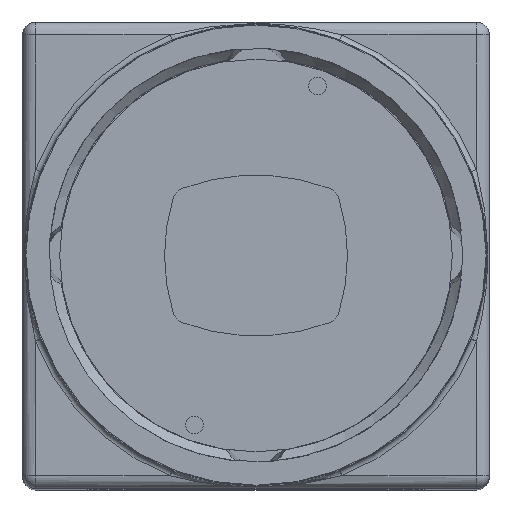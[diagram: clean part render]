
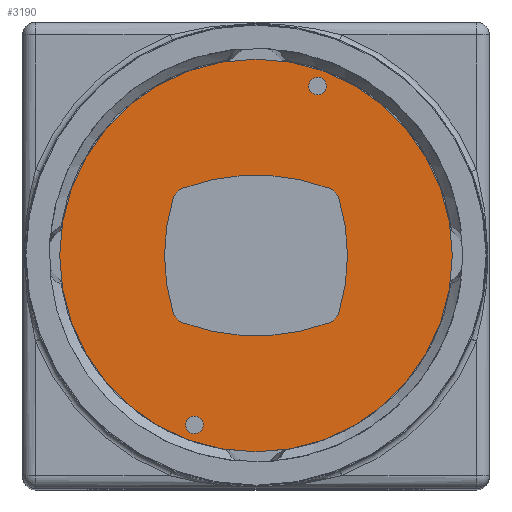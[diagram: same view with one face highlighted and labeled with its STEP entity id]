
A CAD part, top view. The second image highlights one B-rep face of the part: STEP entity #3190.
In plain terms, the highlighted planar face has unit normal (0, 0, 1).
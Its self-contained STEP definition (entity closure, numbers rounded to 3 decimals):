
#3190 = ADVANCED_FACE( '', ( #8228, #8229, #8230, #8231 ), #8232, .F. );
#8228 = FACE_BOUND( '', #16061, .T. );
#8229 = FACE_BOUND( '', #16062, .T. );
#8230 = FACE_BOUND( '', #16063, .T. );
#8231 = FACE_OUTER_BOUND( '', #16064, .T. );
#8232 = PLANE( '', #16065 );
#16061 = EDGE_LOOP( '', ( #27508 ) );
#16062 = EDGE_LOOP( '', ( #27509 ) );
#16063 = EDGE_LOOP( '', ( #27510, #27511, #27512, #27513, #27514, #27515, #27516, #27517 ) );
#16064 = EDGE_LOOP( '', ( #27518 ) );
#16065 = AXIS2_PLACEMENT_3D( '', #27519, #27520, #27521 );
#27508 = ORIENTED_EDGE( '', *, *, #45143, .T. );
#27509 = ORIENTED_EDGE( '', *, *, #45812, .T. );
#27510 = ORIENTED_EDGE( '', *, *, #45356, .T. );
#27511 = ORIENTED_EDGE( '', *, *, #45813, .T. );
#27512 = ORIENTED_EDGE( '', *, *, #45814, .T. );
#27513 = ORIENTED_EDGE( '', *, *, #45815, .T. );
#27514 = ORIENTED_EDGE( '', *, *, #44881, .T. );
#27515 = ORIENTED_EDGE( '', *, *, #45816, .T. );
#27516 = ORIENTED_EDGE( '', *, *, #45817, .T. );
#27517 = ORIENTED_EDGE( '', *, *, #45818, .T. );
#27518 = ORIENTED_EDGE( '', *, *, #45819, .F. );
#27519 = CARTESIAN_POINT( '', ( 1.907, 5.239, 5.8 ) );
#27520 = DIRECTION( '', ( 0., 0., -1. ) );
#27521 = DIRECTION( '', ( -1., 0., 0. ) );
#44881 = EDGE_CURVE( '', #53747, #53748, #53749, .T. );
#45143 = EDGE_CURVE( '', #54195, #54195, #54196, .T. );
#45356 = EDGE_CURVE( '', #54542, #54540, #54543, .T. );
#45812 = EDGE_CURVE( '', #55288, #55288, #55289, .T. );
#45813 = EDGE_CURVE( '', #54540, #55290, #55291, .T. );
#45814 = EDGE_CURVE( '', #55290, #55292, #55293, .T. );
#45815 = EDGE_CURVE( '', #55292, #53747, #55294, .T. );
#45816 = EDGE_CURVE( '', #53748, #55295, #55296, .T. );
#45817 = EDGE_CURVE( '', #55295, #55297, #55298, .T. );
#45818 = EDGE_CURVE( '', #55297, #54542, #55299, .T. );
#45819 = EDGE_CURVE( '', #55300, #55300, #55301, .T. );
#53747 = VERTEX_POINT( '', #66592 );
#53748 = VERTEX_POINT( '', #66593 );
#53749 = CIRCLE( '', #66594, 12. );
#54195 = VERTEX_POINT( '', #67283 );
#54196 = CIRCLE( '', #67284, 0.55 );
#54540 = VERTEX_POINT( '', #67812 );
#54542 = VERTEX_POINT( '', #67815 );
#54543 = CIRCLE( '', #67816, 12. );
#55288 = VERTEX_POINT( '', #69020 );
#55289 = CIRCLE( '', #69021, 0.55 );
#55290 = VERTEX_POINT( '', #69022 );
#55291 = CIRCLE( '', #69023, 1. );
#55292 = VERTEX_POINT( '', #69024 );
#55293 = CIRCLE( '', #69025, 13. );
#55294 = CIRCLE( '', #69026, 1. );
#55295 = VERTEX_POINT( '', #69027 );
#55296 = CIRCLE( '', #69028, 1. );
#55297 = VERTEX_POINT( '', #69029 );
#55298 = CIRCLE( '', #69030, 13. );
#55299 = CIRCLE( '', #69031, 1. );
#55300 = VERTEX_POINT( '', #69032 );
#55301 = CIRCLE( '', #69033, 12.2 );
#66592 = CARTESIAN_POINT( '', ( -5.153, -3.537, 5.8 ) );
#66593 = CARTESIAN_POINT( '', ( -5.153, 3.537, 5.8 ) );
#66594 = AXIS2_PLACEMENT_3D( '', #81817, #81818, #81819 );
#67283 = CARTESIAN_POINT( '', ( -3.831, -11.075, 5.8 ) );
#67284 = AXIS2_PLACEMENT_3D( '', #82141, #82142, #82143 );
#67812 = CARTESIAN_POINT( '', ( 5.153, -3.537, 5.8 ) );
#67815 = CARTESIAN_POINT( '', ( 5.153, 3.537, 5.8 ) );
#67816 = AXIS2_PLACEMENT_3D( '', #82383, #82384, #82385 );
#69020 = CARTESIAN_POINT( '', ( 3.831, 9.975, 5.8 ) );
#69021 = AXIS2_PLACEMENT_3D( '', #82904, #82905, #82906 );
#69022 = CARTESIAN_POINT( '', ( 4.548, -4.179, 5.8 ) );
#69023 = AXIS2_PLACEMENT_3D( '', #82907, #82908, #82909 );
#69024 = CARTESIAN_POINT( '', ( -4.548, -4.179, 5.8 ) );
#69025 = AXIS2_PLACEMENT_3D( '', #82910, #82911, #82912 );
#69026 = AXIS2_PLACEMENT_3D( '', #82913, #82914, #82915 );
#69027 = CARTESIAN_POINT( '', ( -4.548, 4.179, 5.8 ) );
#69028 = AXIS2_PLACEMENT_3D( '', #82916, #82917, #82918 );
#69029 = CARTESIAN_POINT( '', ( 4.548, 4.179, 5.8 ) );
#69030 = AXIS2_PLACEMENT_3D( '', #82919, #82920, #82921 );
#69031 = AXIS2_PLACEMENT_3D( '', #82922, #82923, #82924 );
#69032 = CARTESIAN_POINT( '', ( -12.2, 0., 5.8 ) );
#69033 = AXIS2_PLACEMENT_3D( '', #82925, #82926, #82927 );
#81817 = CARTESIAN_POINT( '', ( 6.314, 0., 5.8 ) );
#81818 = DIRECTION( '', ( 0., 0., -1. ) );
#81819 = DIRECTION( '', ( 1., 0., 0. ) );
#82141 = CARTESIAN_POINT( '', ( -3.831, -10.525, 5.8 ) );
#82142 = DIRECTION( '', ( 0., 0., -1. ) );
#82143 = DIRECTION( '', ( 0., -1., 0. ) );
#82383 = CARTESIAN_POINT( '', ( -6.314, 0., 5.8 ) );
#82384 = DIRECTION( '', ( 0., 0., -1. ) );
#82385 = DIRECTION( '', ( -1., 0., 0. ) );
#82904 = CARTESIAN_POINT( '', ( 3.831, 10.525, 5.8 ) );
#82905 = DIRECTION( '', ( 0., 0., -1. ) );
#82906 = DIRECTION( '', ( 0., -1., 0. ) );
#82907 = CARTESIAN_POINT( '', ( 4.198, -3.242, 5.8 ) );
#82908 = DIRECTION( '', ( 0., 0., -1. ) );
#82909 = DIRECTION( '', ( -1., 0., 0. ) );
#82910 = CARTESIAN_POINT( '', ( 0., 8., 5.8 ) );
#82911 = DIRECTION( '', ( 0., 0., -1. ) );
#82912 = DIRECTION( '', ( 1., 0., 0. ) );
#82913 = CARTESIAN_POINT( '', ( -4.198, -3.242, 5.8 ) );
#82914 = DIRECTION( '', ( 0., 0., -1. ) );
#82915 = DIRECTION( '', ( -1., 0., 0. ) );
#82916 = CARTESIAN_POINT( '', ( -4.198, 3.242, 5.8 ) );
#82917 = DIRECTION( '', ( 0., 0., -1. ) );
#82918 = DIRECTION( '', ( -1., 0., 0. ) );
#82919 = CARTESIAN_POINT( '', ( 0., -8., 5.8 ) );
#82920 = DIRECTION( '', ( 0., 0., -1. ) );
#82921 = DIRECTION( '', ( 1., 0., 0. ) );
#82922 = CARTESIAN_POINT( '', ( 4.198, 3.242, 5.8 ) );
#82923 = DIRECTION( '', ( 0., 0., -1. ) );
#82924 = DIRECTION( '', ( -1., 0., 0. ) );
#82925 = CARTESIAN_POINT( '', ( 0., 0., 5.8 ) );
#82926 = DIRECTION( '', ( 0., 0., -1. ) );
#82927 = DIRECTION( '', ( -1., 0., 0. ) );
